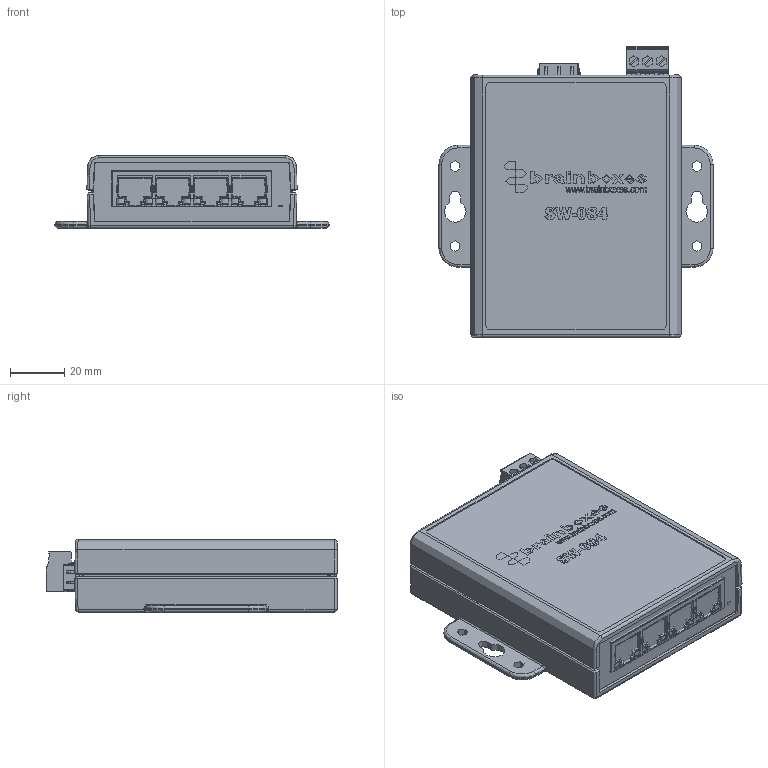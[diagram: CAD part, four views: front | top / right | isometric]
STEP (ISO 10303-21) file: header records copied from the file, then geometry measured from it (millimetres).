
FILE_DESCRIPTION(('FreeCAD Model'),'2;1');
FILE_NAME('Open CASCADE Shape Model','2023-06-01T11:45:48',('Author'),( ''),'Open CASCADE STEP processor 7.6','FreeCAD','Unknown');
FILE_SCHEMA(('AUTOMOTIVE_DESIGN { 1 0 10303 214 1 1 1 1 }'));
Products named in the file (1): For Colour Cased SW-084
Bounding box: 101 x 107.29 x 27.1 mm (x, y, z)
Volume: 74142 mm3; surface area: 95787 mm2
Topology: 97 solids, 97 shells, 7755 faces, 22250 edges, 14454 vertices
Faces by surface type: plane 6106, cylinder 907, bspline 620, extrusion 60, sphere 26, torus 24, cone 12
Full cylindrical faces by diameter (mm): 3.81 x1
Entity records: 261953 total; most frequent: CARTESIAN_POINT 59324, ORIENTED_EDGE 44464, DIRECTION 37977, EDGE_CURVE 22232, VECTOR 18887, LINE 18827, VERTEX_POINT 14454, AXIS2_PLACEMENT_3D 9545
